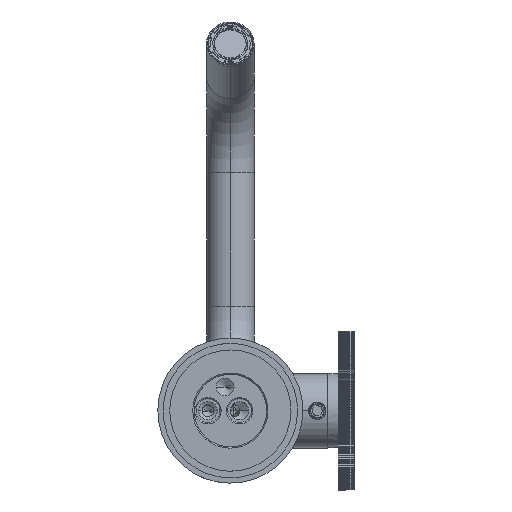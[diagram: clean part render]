
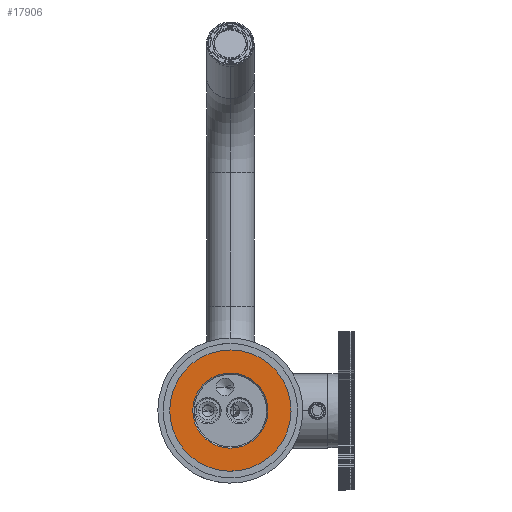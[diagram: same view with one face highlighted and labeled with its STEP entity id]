
A CAD part, top view. The second image highlights one B-rep face of the part: STEP entity #17906.
In plain terms, the highlighted planar face has unit normal (0, 0, 1) as drawn and (0, -1, 0) by its records, which use the part's own axes.
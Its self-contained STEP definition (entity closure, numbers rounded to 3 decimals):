
#500 = ORIENTED_EDGE ( 'NONE', *, *, #14921, .T. ) ;
#1707 = CIRCLE ( 'NONE', #15688, 23. ) ;
#3654 = CARTESIAN_POINT ( 'NONE',  ( 0., 0., 0. ) ) ;
#4034 = CARTESIAN_POINT ( 'NONE',  ( -13.75, 0., 0. ) ) ;
#4381 = PLANE ( 'NONE',  #31305 ) ;
#9872 = EDGE_CURVE ( 'NONE', #17532, #25813, #16899, .T. ) ;
#11055 = ORIENTED_EDGE ( 'NONE', *, *, #64004, .T. ) ;
#14404 = CIRCLE ( 'NONE', #49085, 14.25 ) ;
#14602 = DIRECTION ( 'NONE',  ( 0., -1., 0. ) ) ;
#14921 = EDGE_CURVE ( 'NONE', #25813, #17532, #1707, .T. ) ;
#15688 = AXIS2_PLACEMENT_3D ( 'NONE', #29694, #68471, #40931 ) ;
#16176 = VERTEX_POINT ( 'NONE', #47094 ) ;
#16899 = CIRCLE ( 'NONE', #30780, 23. ) ;
#17532 = VERTEX_POINT ( 'NONE', #61363 ) ;
#17906 = ADVANCED_FACE ( 'NONE', ( #31625, #21813 ), #4381, .F. ) ;
#21813 = FACE_OUTER_BOUND ( 'NONE', #56210, .T. ) ;
#22529 = AXIS2_PLACEMENT_3D ( 'NONE', #3654, #37002, #70018 ) ;
#24848 = CIRCLE ( 'NONE', #22529, 14.25 ) ;
#25813 = VERTEX_POINT ( 'NONE', #69426 ) ;
#26529 = DIRECTION ( 'NONE',  ( 0., 0., 1. ) ) ;
#26534 = DIRECTION ( 'NONE',  ( 0., 0., -1. ) ) ;
#29694 = CARTESIAN_POINT ( 'NONE',  ( 0., 0., 0. ) ) ;
#30780 = AXIS2_PLACEMENT_3D ( 'NONE', #54424, #14602, #26534 ) ;
#31305 = AXIS2_PLACEMENT_3D ( 'NONE', #4034, #60577, #26529 ) ;
#31625 = FACE_BOUND ( 'NONE', #60685, .T. ) ;
#31651 = CARTESIAN_POINT ( 'NONE',  ( 0., 0., -14.25 ) ) ;
#36384 = ORIENTED_EDGE ( 'NONE', *, *, #71302, .T. ) ;
#37002 = DIRECTION ( 'NONE',  ( 0., 1., 0. ) ) ;
#40931 = DIRECTION ( 'NONE',  ( 0., 0., -1. ) ) ;
#44206 = VERTEX_POINT ( 'NONE', #31651 ) ;
#46746 = CARTESIAN_POINT ( 'NONE',  ( 0., 0., 0. ) ) ;
#47094 = CARTESIAN_POINT ( 'NONE',  ( 0., 0., 14.25 ) ) ;
#49085 = AXIS2_PLACEMENT_3D ( 'NONE', #46746, #56209, #52181 ) ;
#50915 = ORIENTED_EDGE ( 'NONE', *, *, #9872, .T. ) ;
#52181 = DIRECTION ( 'NONE',  ( 0., 0., 1. ) ) ;
#54424 = CARTESIAN_POINT ( 'NONE',  ( 0., 0., 0. ) ) ;
#56209 = DIRECTION ( 'NONE',  ( 0., 1., 0. ) ) ;
#56210 = EDGE_LOOP ( 'NONE', ( #50915, #500 ) ) ;
#60577 = DIRECTION ( 'NONE',  ( 0., 1., 0. ) ) ;
#60685 = EDGE_LOOP ( 'NONE', ( #36384, #11055 ) ) ;
#61363 = CARTESIAN_POINT ( 'NONE',  ( 0., 0., -23. ) ) ;
#64004 = EDGE_CURVE ( 'NONE', #16176, #44206, #14404, .T. ) ;
#68471 = DIRECTION ( 'NONE',  ( 0., -1., 0. ) ) ;
#69426 = CARTESIAN_POINT ( 'NONE',  ( 0., 0., 23. ) ) ;
#70018 = DIRECTION ( 'NONE',  ( 0., 0., 1. ) ) ;
#71302 = EDGE_CURVE ( 'NONE', #44206, #16176, #24848, .T. ) ;
